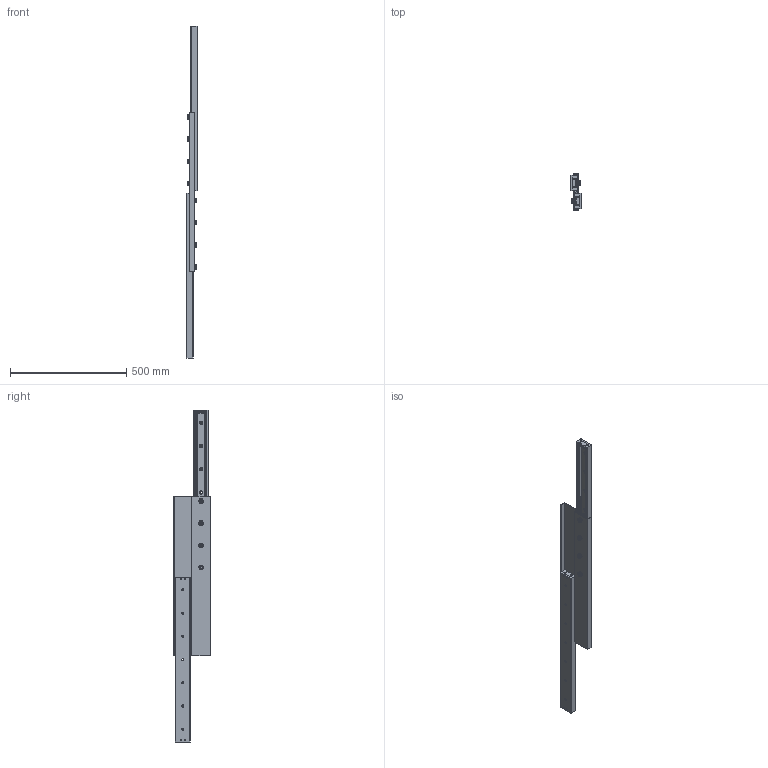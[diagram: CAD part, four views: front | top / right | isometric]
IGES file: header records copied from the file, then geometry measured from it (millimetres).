
Start section: SolidWorks IGES file using analytic representation for surfaces
Global section: file name: C:\Users\tsuch\OneDrive\デスクトップ\LSIMモジュール化図面\LSIM-DV(3D)\iges形式\LSIM65DVL.IGS; native system: SolidWorks 2019; preprocessor: SolidWorks 2019; author: tsuch; date: 210614.084901; units: millimetre
Bounding box: 48 x 160 x 1430 mm (x, y, z)
Surface area: 693977.2 mm2 (no closed solid volume)
Topology: 0 solids, 0 shells, 638 faces, 11112 edges, 11112 vertices
Faces by surface type: revolution 350, bspline 288
